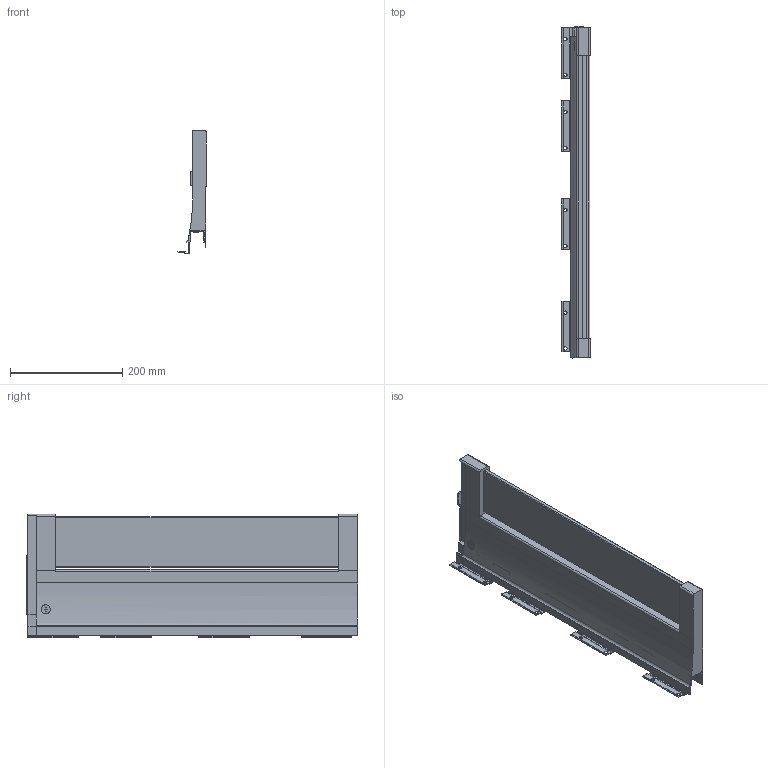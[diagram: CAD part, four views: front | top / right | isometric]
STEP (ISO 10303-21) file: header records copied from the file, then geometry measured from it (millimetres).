
FILE_DESCRIPTION (( 'STEP AP214' ), '1' );
FILE_NAME ('_XP Agantis Dekorseite H127 NL600 RE Top Glashalter.step', '2010-07-08T06:29:24', ( 'grass' ), ( '' ), 'SwSTEP 2.0', 'SolidWorks 2010', '' );
FILE_SCHEMA (( 'AUTOMOTIVE_DESIGN' ));
Length unit declared in the file: millimetre
Products named in the file (1): _XP Agantis Dekorseite H127 NL600 RE Top Glashalter
Bounding box: 50.11 x 592.6 x 220.7 mm (x, y, z)
Volume: 1854713.4 mm3; surface area: 362749.3 mm2
Topology: 1 solids, 1 shells, 206 faces, 602 edges, 393 vertices
Faces by surface type: plane 169, cylinder 37
Entity records: 6889 total; most frequent: CARTESIAN_POINT 1289, ORIENTED_EDGE 1204, DIRECTION 1088, EDGE_CURVE 602, VECTOR 526, LINE 526, VERTEX_POINT 393, AXIS2_PLACEMENT_3D 281
